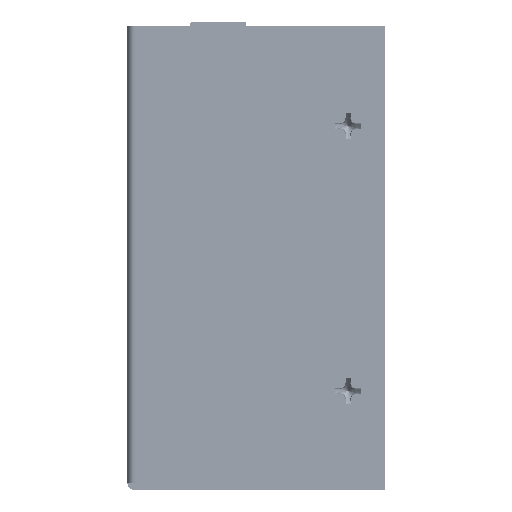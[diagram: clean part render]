
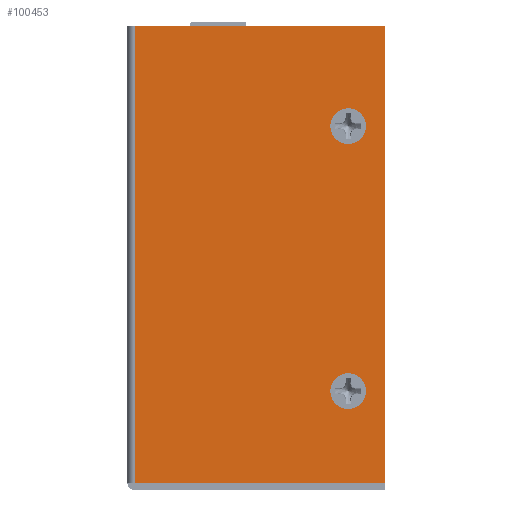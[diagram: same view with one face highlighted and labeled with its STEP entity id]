
A CAD part, left-side view. The second image highlights one B-rep face of the part: STEP entity #100453.
In plain terms, the highlighted planar face has unit normal (-1, 0, 0).
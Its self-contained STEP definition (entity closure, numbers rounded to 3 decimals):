
#1241=FACE_BOUND('',#19335,.T.);
#1242=FACE_BOUND('',#19336,.T.);
#4515=PLANE('',#107945);
#8505=CIRCLE('',#107946,2.5);
#8506=CIRCLE('',#107947,2.5);
#8507=CIRCLE('',#107948,2.5);
#8508=CIRCLE('',#107949,2.5);
#13657=FACE_OUTER_BOUND('',#19334,.T.);
#19334=EDGE_LOOP('',(#93135,#93136,#93137,#93138));
#19335=EDGE_LOOP('',(#93139,#93140));
#19336=EDGE_LOOP('',(#93141,#93142));
#29922=LINE('',#278857,#40147);
#29923=LINE('',#278859,#40148);
#29924=LINE('',#278861,#40149);
#29925=LINE('',#278862,#40150);
#40147=VECTOR('',#132493,10.);
#40148=VECTOR('',#132494,0.365);
#40149=VECTOR('',#132495,10.);
#40150=VECTOR('',#132496,10.);
#49681=VERTEX_POINT('',#278855);
#49682=VERTEX_POINT('',#278856);
#49683=VERTEX_POINT('',#278858);
#49684=VERTEX_POINT('',#278860);
#49685=VERTEX_POINT('',#278863);
#49686=VERTEX_POINT('',#278864);
#49687=VERTEX_POINT('',#278867);
#49688=VERTEX_POINT('',#278868);
#64220=EDGE_CURVE('',#49681,#49682,#29922,.T.);
#64221=EDGE_CURVE('',#49682,#49683,#29923,.T.);
#64222=EDGE_CURVE('',#49683,#49684,#29924,.T.);
#64223=EDGE_CURVE('',#49684,#49681,#29925,.T.);
#64224=EDGE_CURVE('',#49685,#49686,#8505,.T.);
#64225=EDGE_CURVE('',#49686,#49685,#8506,.T.);
#64226=EDGE_CURVE('',#49687,#49688,#8507,.T.);
#64227=EDGE_CURVE('',#49688,#49687,#8508,.T.);
#93135=ORIENTED_EDGE('',*,*,#64220,.T.);
#93136=ORIENTED_EDGE('',*,*,#64221,.T.);
#93137=ORIENTED_EDGE('',*,*,#64222,.T.);
#93138=ORIENTED_EDGE('',*,*,#64223,.T.);
#93139=ORIENTED_EDGE('',*,*,#64224,.T.);
#93140=ORIENTED_EDGE('',*,*,#64225,.T.);
#93141=ORIENTED_EDGE('',*,*,#64226,.F.);
#93142=ORIENTED_EDGE('',*,*,#64227,.F.);
#100453=ADVANCED_FACE('',(#13657,#1241,#1242),#4515,.T.);
#107945=AXIS2_PLACEMENT_3D('',#278854,#132491,#132492);
#107946=AXIS2_PLACEMENT_3D('',#278865,#132497,#132498);
#107947=AXIS2_PLACEMENT_3D('',#278866,#132499,#132500);
#107948=AXIS2_PLACEMENT_3D('',#278869,#132501,#132502);
#107949=AXIS2_PLACEMENT_3D('',#278870,#132503,#132504);
#132491=DIRECTION('center_axis',(-1.,0.,0.));
#132492=DIRECTION('ref_axis',(0.,0.,
1.));
#132493=DIRECTION('',(0.,0.,-1.));
#132494=DIRECTION('',(0.,-1.,0.));
#132495=DIRECTION('',(0.,0.,1.));
#132496=DIRECTION('',(0.,1.,0.));
#132497=DIRECTION('center_axis',(1.,0.,0.));
#132498=DIRECTION('ref_axis',(0.,-1.,0.));
#132499=DIRECTION('center_axis',(1.,0.,0.));
#132500=DIRECTION('ref_axis',(0.,-1.,0.));
#132501=DIRECTION('center_axis',(-1.,0.,0.));
#132502=DIRECTION('ref_axis',(0.,0.,
-1.));
#132503=DIRECTION('center_axis',(-1.,0.,0.));
#132504=DIRECTION('ref_axis',(0.,0.,
-1.));
#278854=CARTESIAN_POINT('Origin',(0.,17.782,
-31.995));
#278855=CARTESIAN_POINT('',(0.,34.99,0.));
#278856=CARTESIAN_POINT('',(0.,34.99,-63.99));
#278857=CARTESIAN_POINT('',(0.,34.99,-31.995));
#278858=CARTESIAN_POINT('',(0.,0.,-63.99));
#278859=CARTESIAN_POINT('',(0.,36.137,-63.99));
#278860=CARTESIAN_POINT('',(0.,0.,0.));
#278861=CARTESIAN_POINT('',(0.,0.,0.));
#278862=CARTESIAN_POINT('',(0.,34.99,0.));
#278863=CARTESIAN_POINT('',(0.,5.1,-48.66));
#278864=CARTESIAN_POINT('',(0.,7.6,-51.16));
#278865=CARTESIAN_POINT('Origin',(0.,5.1,
-51.16));
#278866=CARTESIAN_POINT('Origin',(0.,5.1,
-51.16));
#278867=CARTESIAN_POINT('',(0.,7.6,-14.08));
#278868=CARTESIAN_POINT('',(0.,5.1,-11.58));
#278869=CARTESIAN_POINT('Origin',(0.,5.1,
-14.08));
#278870=CARTESIAN_POINT('Origin',(0.,5.1,
-14.08));
